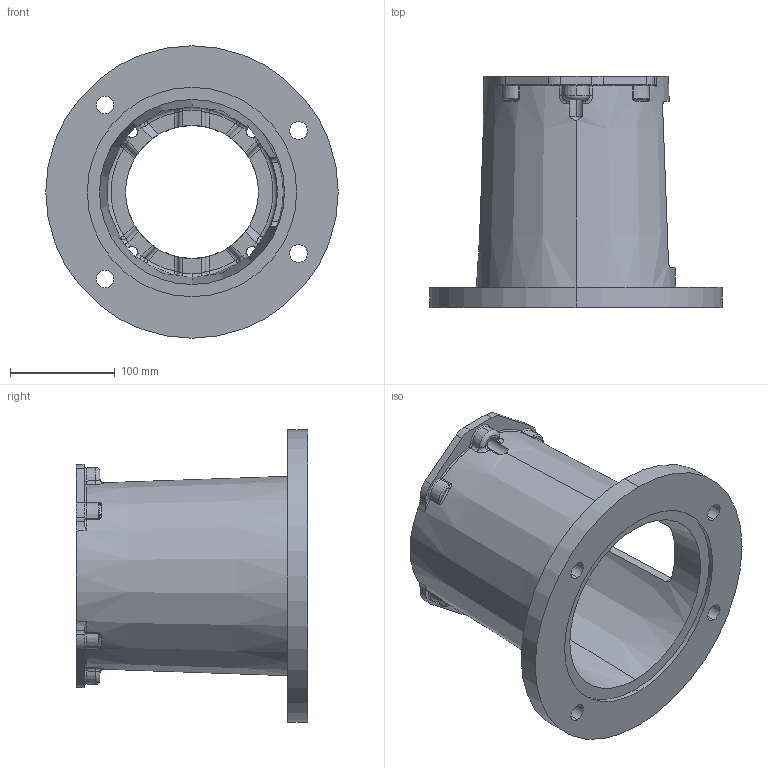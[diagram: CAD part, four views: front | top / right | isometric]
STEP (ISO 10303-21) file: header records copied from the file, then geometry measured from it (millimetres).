
FILE_DESCRIPTION (( 'STEP AP203' ), '1' );
FILE_NAME ('E787862C.STEP', '2014-11-04T15:53:50', ( '' ), ( '' ), 'SwSTEP 2.0', 'SolidWorks 2014', '' );
FILE_SCHEMA (( 'CONFIG_CONTROL_DESIGN' ));
Length unit declared in the file: inch
Products named in the file (1): E787862C
Bounding box: 279.4 x 220.73 x 279.4 mm (x, y, z)
Volume: 1533359.4 mm3; surface area: 339107.5 mm2
Topology: 1 solids, 1 shells, 321 faces, 855 edges, 520 vertices
Faces by surface type: cylinder 86, torus 76, bspline 64, plane 50, sphere 24, cone 21
Entity records: 13748 total; most frequent: CARTESIAN_POINT 6241, ORIENTED_EDGE 1686, DIRECTION 1483, EDGE_CURVE 843, AXIS2_PLACEMENT_3D 666, VERTEX_POINT 520, CIRCLE 408, EDGE_LOOP 341
